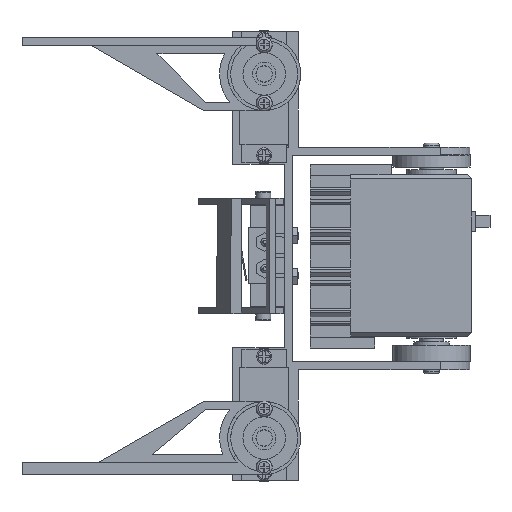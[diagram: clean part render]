
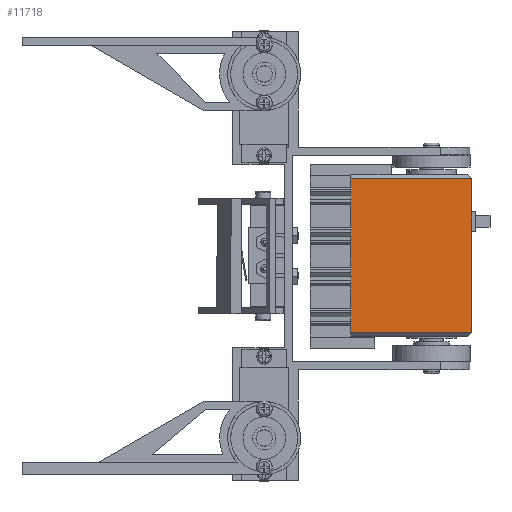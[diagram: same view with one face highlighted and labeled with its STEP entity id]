
A CAD part, front view. The second image highlights one B-rep face of the part: STEP entity #11718.
In plain terms, the highlighted planar face has unit normal (0, -1, 0) as drawn and (0, 0, -1) by its records, which use the part's own axes.
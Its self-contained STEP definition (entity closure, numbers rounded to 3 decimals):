
#926=PLANE('',#12772);
#1496=FACE_OUTER_BOUND('',#2267,.T.);
#2267=EDGE_LOOP('',(#10678,#10679,#10680,#10681));
#3585=LINE('',#19165,#4853);
#3595=LINE('',#19184,#4863);
#3598=LINE('',#19190,#4866);
#3599=LINE('',#19191,#4867);
#4853=VECTOR('',#15692,10.);
#4863=VECTOR('',#15710,10.);
#4866=VECTOR('',#15715,10.);
#4867=VECTOR('',#15716,10.);
#6188=VERTEX_POINT('',#19162);
#6189=VERTEX_POINT('',#19164);
#6194=VERTEX_POINT('',#19183);
#6196=VERTEX_POINT('',#19189);
#7699=EDGE_CURVE('',#6188,#6189,#3585,.T.);
#7709=EDGE_CURVE('',#6194,#6189,#3595,.T.);
#7712=EDGE_CURVE('',#6196,#6188,#3598,.T.);
#7713=EDGE_CURVE('',#6194,#6196,#3599,.T.);
#10678=ORIENTED_EDGE('',*,*,#7699,.F.);
#10679=ORIENTED_EDGE('',*,*,#7712,.F.);
#10680=ORIENTED_EDGE('',*,*,#7713,.F.);
#10681=ORIENTED_EDGE('',*,*,#7709,.T.);
#11718=ADVANCED_FACE('',(#1496),#926,.F.);
#12772=AXIS2_PLACEMENT_3D('',#19188,#15713,#15714);
#15692=DIRECTION('',(1.,0.,0.));
#15710=DIRECTION('',(0.,-1.,0.));
#15713=DIRECTION('center_axis',(0.,0.,1.));
#15714=DIRECTION('ref_axis',(0.,-1.,0.));
#15715=DIRECTION('',(0.,-1.,0.));
#15716=DIRECTION('',(-1.,0.,0.));
#19162=CARTESIAN_POINT('',(0.,1.,0.));
#19164=CARTESIAN_POINT('',(40.,1.,0.));
#19165=CARTESIAN_POINT('',(20.,1.,0.));
#19183=CARTESIAN_POINT('',(40.,39.,0.));
#19184=CARTESIAN_POINT('',(40.,20.,0.));
#19188=CARTESIAN_POINT('Origin',(20.,20.,0.));
#19189=CARTESIAN_POINT('',(0.,39.,0.));
#19190=CARTESIAN_POINT('',(0.,20.,0.));
#19191=CARTESIAN_POINT('',(20.,39.,0.));
